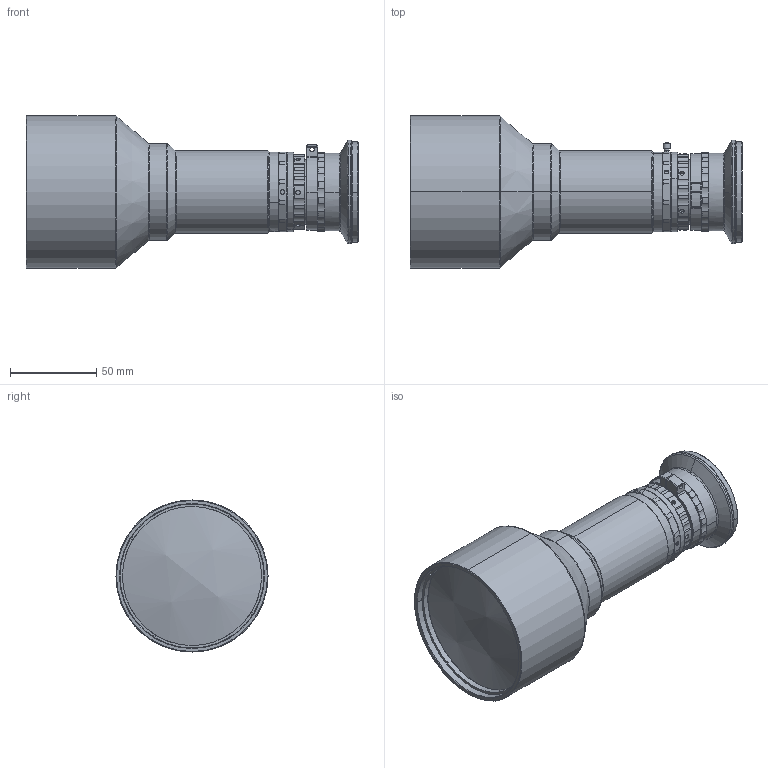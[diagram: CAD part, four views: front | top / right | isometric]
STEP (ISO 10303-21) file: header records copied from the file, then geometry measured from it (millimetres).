
FILE_DESCRIPTION (( 'STEP AP203' ), '1' );
FILE_NAME ('DTCA185-66-G-M58-AL.STEP', '2023-05-03T01:49:39', ( '' ), ( '' ), 'SwSTEP 2.0', 'SolidWorks 2017', '' );
FILE_SCHEMA (( 'CONFIG_CONTROL_DESIGN' ));
Length unit declared in the file: millimetre
Products named in the file (1): DTCA185-66-G-M58-AL
Bounding box: 192.1 x 88 x 88 mm (x, y, z)
Volume: 581342.8 mm3; surface area: 54960.5 mm2
Topology: 1 solids, 4 shells, 704 faces, 1849 edges, 1184 vertices
Faces by surface type: cylinder 246, plane 205, cone 191, bspline 62
Entity records: 25395 total; most frequent: CARTESIAN_POINT 8217, ORIENTED_EDGE 3694, DIRECTION 3528, EDGE_CURVE 1847, AXIS2_PLACEMENT_3D 1446, VERTEX_POINT 1184, CIRCLE 803, EDGE_LOOP 771
